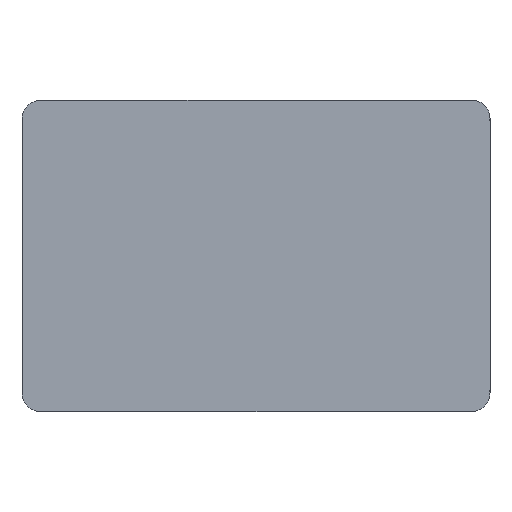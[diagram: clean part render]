
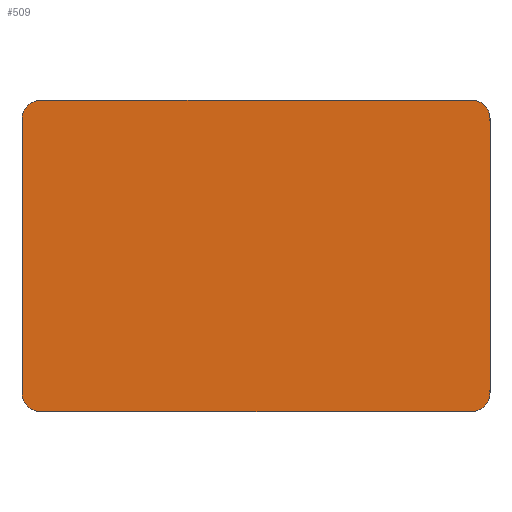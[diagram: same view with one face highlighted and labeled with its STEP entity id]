
A CAD part, front view. The second image highlights one B-rep face of the part: STEP entity #509.
In plain terms, the highlighted planar face has unit normal (0, -1, 0).
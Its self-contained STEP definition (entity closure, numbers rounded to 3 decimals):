
#88=FACE_OUTER_BOUND('',#129,.T.);
#129=EDGE_LOOP('',(#386,#387,#388,#389,#390,#391,#392,#393));
#200=LINE('',#819,#218);
#201=LINE('',#823,#219);
#202=LINE('',#827,#220);
#203=LINE('',#830,#221);
#218=VECTOR('',#654,10.);
#219=VECTOR('',#657,10.);
#220=VECTOR('',#660,10.);
#221=VECTOR('',#663,10.);
#236=CIRCLE('',#569,3.5);
#237=CIRCLE('',#570,3.3);
#238=CIRCLE('',#571,3.5);
#239=CIRCLE('',#572,3.5);
#274=VERTEX_POINT('',#815);
#275=VERTEX_POINT('',#816);
#276=VERTEX_POINT('',#818);
#277=VERTEX_POINT('',#820);
#278=VERTEX_POINT('',#822);
#279=VERTEX_POINT('',#824);
#280=VERTEX_POINT('',#826);
#281=VERTEX_POINT('',#828);
#324=EDGE_CURVE('',#274,#275,#236,.T.);
#325=EDGE_CURVE('',#274,#276,#200,.T.);
#326=EDGE_CURVE('',#277,#276,#237,.F.);
#327=EDGE_CURVE('',#277,#278,#201,.T.);
#328=EDGE_CURVE('',#279,#278,#238,.T.);
#329=EDGE_CURVE('',#279,#280,#202,.T.);
#330=EDGE_CURVE('',#281,#280,#239,.T.);
#331=EDGE_CURVE('',#281,#275,#203,.T.);
#386=ORIENTED_EDGE('',*,*,#324,.F.);
#387=ORIENTED_EDGE('',*,*,#325,.T.);
#388=ORIENTED_EDGE('',*,*,#326,.F.);
#389=ORIENTED_EDGE('',*,*,#327,.T.);
#390=ORIENTED_EDGE('',*,*,#328,.F.);
#391=ORIENTED_EDGE('',*,*,#329,.T.);
#392=ORIENTED_EDGE('',*,*,#330,.F.);
#393=ORIENTED_EDGE('',*,*,#331,.T.);
#503=PLANE('',#568);
#509=ADVANCED_FACE('',(#88),#503,.F.);
#568=AXIS2_PLACEMENT_3D('',#814,#650,#651);
#569=AXIS2_PLACEMENT_3D('',#817,#652,#653);
#570=AXIS2_PLACEMENT_3D('',#821,#655,#656);
#571=AXIS2_PLACEMENT_3D('',#825,#658,#659);
#572=AXIS2_PLACEMENT_3D('',#829,#661,#662);
#650=DIRECTION('center_axis',(0.,1.,0.));
#651=DIRECTION('ref_axis',(-1.,0.,0.));
#652=DIRECTION('center_axis',(0.,1.,0.));
#653=DIRECTION('ref_axis',(0.707,0.,-0.707));
#654=DIRECTION('',(0.,0.,1.));
#655=DIRECTION('center_axis',(0.,-1.,0.));
#656=DIRECTION('ref_axis',(0.,0.,1.));
#657=DIRECTION('',(-1.,0.,0.));
#658=DIRECTION('center_axis',(0.,1.,0.));
#659=DIRECTION('ref_axis',(-0.707,0.,0.707));
#660=DIRECTION('',(0.,0.,-1.));
#661=DIRECTION('center_axis',(0.,1.,0.));
#662=DIRECTION('ref_axis',(-0.707,0.,-0.707));
#663=DIRECTION('',(1.,0.,0.));
#814=CARTESIAN_POINT('Origin',(44.4,-0.73,-8.642));
#815=CARTESIAN_POINT('',(87.7,-0.73,-33.95));
#816=CARTESIAN_POINT('',(84.2,-0.73,-37.45));
#817=CARTESIAN_POINT('Origin',(84.2,-0.73,-33.95));
#818=CARTESIAN_POINT('',(87.7,-0.73,16.866));
#819=CARTESIAN_POINT('',(87.7,-0.73,4.112));
#820=CARTESIAN_POINT('',(84.4,-0.73,20.166));
#821=CARTESIAN_POINT('Origin',(84.4,-0.73,16.866));
#822=CARTESIAN_POINT('',(4.6,-0.73,20.166));
#823=CARTESIAN_POINT('',(24.4,-0.73,20.166));
#824=CARTESIAN_POINT('',(1.1,-0.73,16.666));
#825=CARTESIAN_POINT('Origin',(4.6,-0.73,16.666));
#826=CARTESIAN_POINT('',(1.1,-0.73,-33.95));
#827=CARTESIAN_POINT('',(1.1,-0.73,-21.396));
#828=CARTESIAN_POINT('',(4.6,-0.73,-37.45));
#829=CARTESIAN_POINT('Origin',(4.6,-0.73,-33.95));
#830=CARTESIAN_POINT('',(64.4,-0.73,-37.45));
